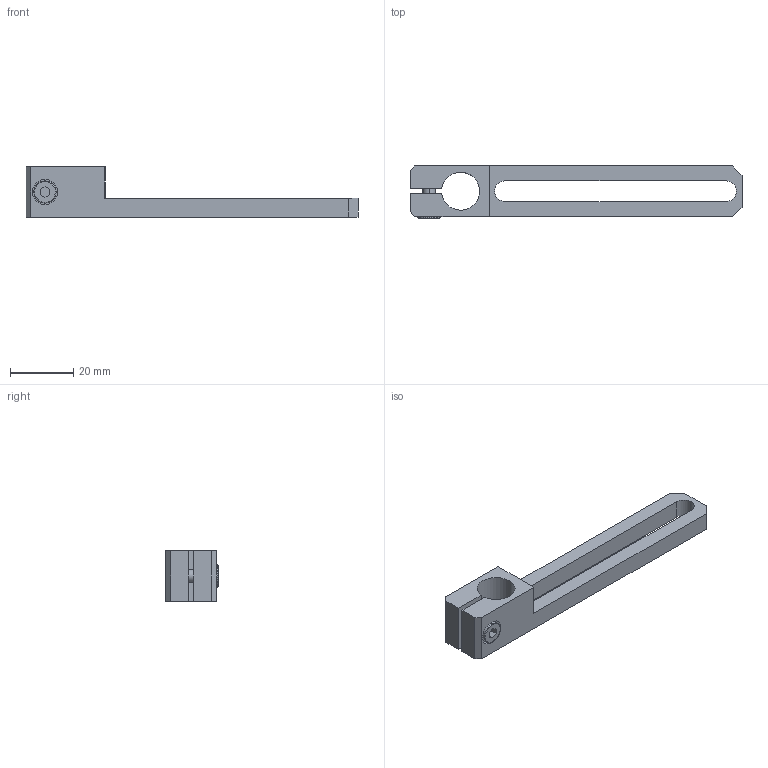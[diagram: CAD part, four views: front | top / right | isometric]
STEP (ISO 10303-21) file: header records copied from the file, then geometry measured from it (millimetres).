
FILE_DESCRIPTION (( 'STEP AP214' ), '1' );
FILE_NAME ('SCF4-1270W16T.STEP', '2023-01-17T05:44:32', ( 'Windows User' ), ( 'P R C' ), 'SwSTEP 2.0', 'SolidWorks 2019', '' );
FILE_SCHEMA (( 'AUTOMOTIVE_DESIGN' ));
Length unit declared in the file: millimetre
Products named in the file (1): SCF4-1270W16T
Bounding box: 105 x 16.5 x 16 mm (x, y, z)
Volume: 8932.6 mm3; surface area: 6763.7 mm2
Topology: 3 solids, 3 shells, 243 faces, 696 edges, 460 vertices
Faces by surface type: plane 222, cylinder 17, cone 2, bspline 2
Entity records: 10820 total; most frequent: CARTESIAN_POINT 1524, DIRECTION 1396, ORIENTED_EDGE 1392, EDGE_CURVE 696, LINE 472, VECTOR 472, AXIS2_PLACEMENT_3D 462, VERTEX_POINT 460
